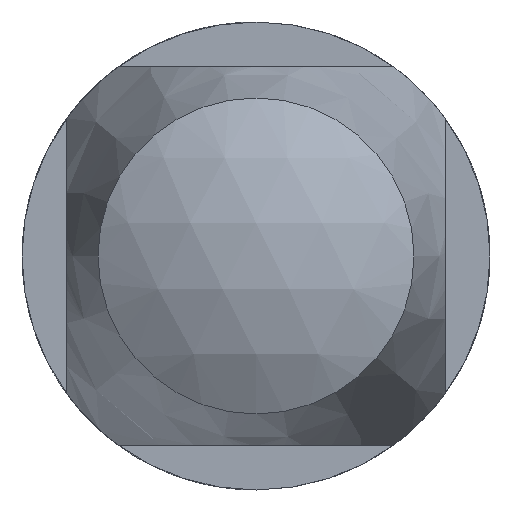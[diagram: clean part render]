
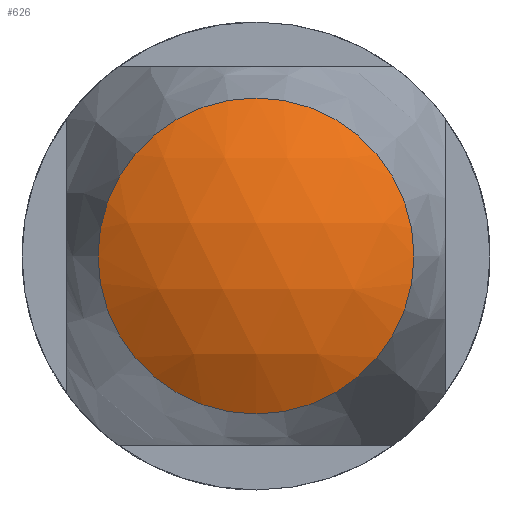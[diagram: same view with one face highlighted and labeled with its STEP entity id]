
A CAD part, front view. The second image highlights one B-rep face of the part: STEP entity #626.
In plain terms, the highlighted spherical face has radius 6.085 mm.
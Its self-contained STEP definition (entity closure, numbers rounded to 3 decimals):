
#19=SPHERICAL_SURFACE('',#689,6.086);
#214=FACE_OUTER_BOUND('',#265,.T.);
#265=EDGE_LOOP('',(#579));
#288=CIRCLE('',#690,3.342);
#345=VERTEX_POINT('',#1251);
#426=EDGE_CURVE('',#345,#345,#288,.T.);
#579=ORIENTED_EDGE('',*,*,#426,.F.);
#626=ADVANCED_FACE('',(#214),#19,.T.);
#689=AXIS2_PLACEMENT_3D('',#1250,#853,#854);
#690=AXIS2_PLACEMENT_3D('',#1252,#855,#856);
#853=DIRECTION('center_axis',(0.,0.,1.));
#854=DIRECTION('ref_axis',(1.,0.,0.));
#855=DIRECTION('center_axis',(0.,1.,0.));
#856=DIRECTION('ref_axis',(-1.,0.,0.));
#1250=CARTESIAN_POINT('Origin',(0.,-28.914,
0.));
#1251=CARTESIAN_POINT('',(-3.342,-34.,0.));
#1252=CARTESIAN_POINT('Origin',(0.,-34.,0.));
